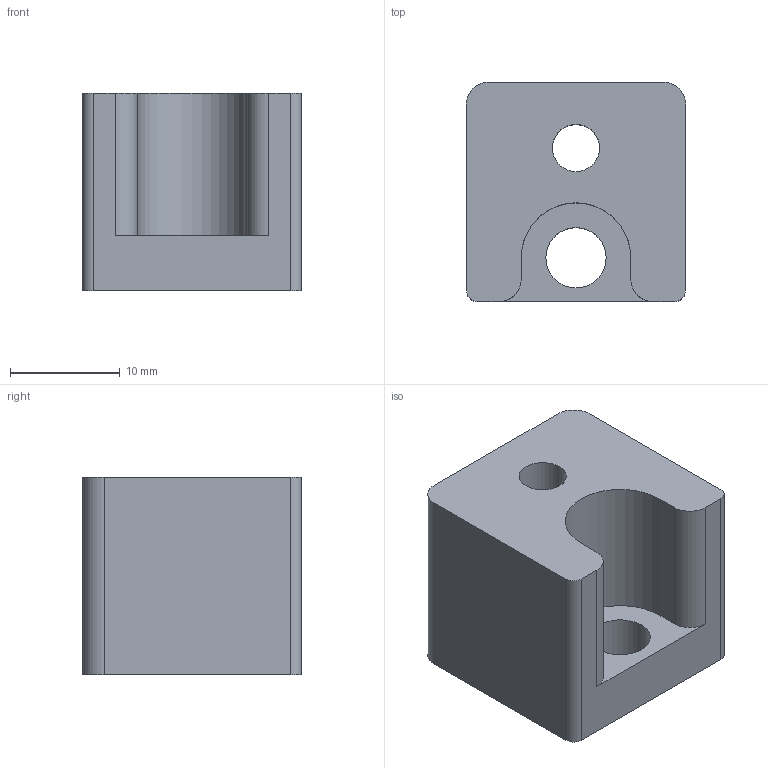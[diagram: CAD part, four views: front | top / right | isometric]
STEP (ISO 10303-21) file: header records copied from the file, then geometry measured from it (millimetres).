
FILE_DESCRIPTION(('Open CASCADE Model'),'2;1');
FILE_NAME('IdlerMountFront','2026-06-25T14:49:35',('Author'),( 'Open CASCADE'),'Open CASCADE STEP processor 7.8','build123d', 'Unknown');
FILE_SCHEMA(('AUTOMOTIVE_DESIGN { 1 0 10303 214 1 1 1 1 }'));
Length unit declared in the file: millimetre
Products named in the file (1): IdlerMountFront
Bounding box: 20 x 20 x 18 mm (x, y, z)
Volume: 5535.4 mm3; surface area: 2736.6 mm2
Topology: 1 solids, 1 shells, 24 faces, 63 edges, 42 vertices
Faces by surface type: plane 14, cylinder 10
Full cylindrical faces by diameter (mm): 4.3 x2, 5.5 x1
Entity records: 1612 total; most frequent: CARTESIAN_POINT 304, DIRECTION 251, LINE 149, VECTOR 149, ORIENTED_EDGE 126, PCURVE 126, DEFINITIONAL_REPRESENTATION 126, EDGE_CURVE 63
